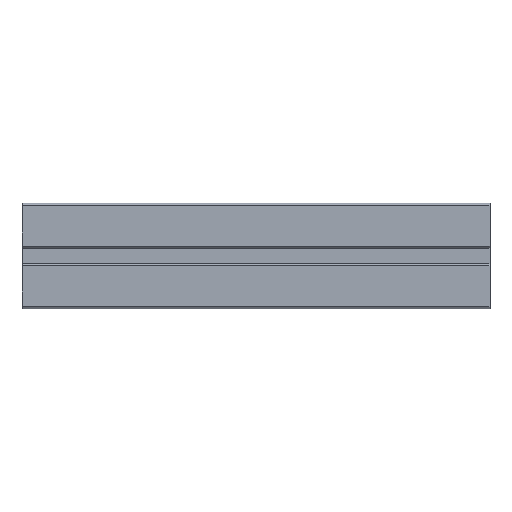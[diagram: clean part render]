
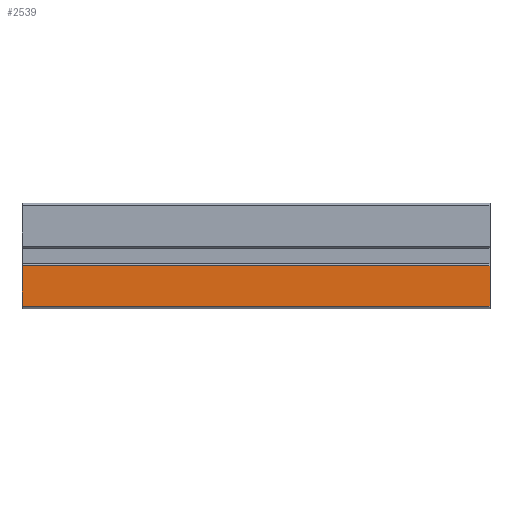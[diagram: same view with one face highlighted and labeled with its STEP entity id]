
A CAD part, top view. The second image highlights one B-rep face of the part: STEP entity #2539.
In plain terms, the highlighted planar face has unit normal (0, 0, 1).
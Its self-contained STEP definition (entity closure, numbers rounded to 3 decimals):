
#54 = CARTESIAN_POINT ( 'NONE',  ( 0., 0., 0. ) ) ;
#65 = VERTEX_POINT ( 'NONE', #2637 ) ;
#103 = EDGE_CURVE ( 'NONE', #815, #2141, #908, .T. ) ;
#121 = FACE_OUTER_BOUND ( 'NONE', #2664, .T. ) ;
#227 = CARTESIAN_POINT ( 'NONE',  ( 200., 0., 0. ) ) ;
#296 = EDGE_CURVE ( 'NONE', #2743, #815, #816, .T. ) ;
#327 = CARTESIAN_POINT ( 'NONE',  ( 200., 0., 0. ) ) ;
#394 = ORIENTED_EDGE ( 'NONE', *, *, #555, .T. ) ;
#465 = DIRECTION ( 'NONE',  ( 1., 0., 0. ) ) ;
#555 = EDGE_CURVE ( 'NONE', #65, #2141, #1571, .T. ) ;
#648 = CARTESIAN_POINT ( 'NONE',  ( 0., 18.35, 0. ) ) ;
#815 = VERTEX_POINT ( 'NONE', #1787 ) ;
#816 = LINE ( 'NONE', #1070, #2170 ) ;
#835 = CARTESIAN_POINT ( 'NONE',  ( 200., 1., 0. ) ) ;
#908 = LINE ( 'NONE', #227, #2045 ) ;
#1054 = DIRECTION ( 'NONE',  ( 1., 0., 0. ) ) ;
#1070 = CARTESIAN_POINT ( 'NONE',  ( 200., 18.35, 0. ) ) ;
#1094 = ORIENTED_EDGE ( 'NONE', *, *, #2421, .F. ) ;
#1110 = DIRECTION ( 'NONE',  ( 0., -1., 0. ) ) ;
#1233 = DIRECTION ( 'NONE',  ( 0., 0., -1. ) ) ;
#1484 = VECTOR ( 'NONE', #465, 1000. ) ;
#1571 = LINE ( 'NONE', #835, #1484 ) ;
#1787 = CARTESIAN_POINT ( 'NONE',  ( 200., 18.35, 0. ) ) ;
#1797 = CARTESIAN_POINT ( 'NONE',  ( 200., 1., 0. ) ) ;
#1864 = DIRECTION ( 'NONE',  ( 0., 1., 0. ) ) ;
#1867 = DIRECTION ( 'NONE',  ( 0., 1., 0. ) ) ;
#2045 = VECTOR ( 'NONE', #1110, 1000. ) ;
#2063 = LINE ( 'NONE', #54, #2696 ) ;
#2071 = AXIS2_PLACEMENT_3D ( 'NONE', #327, #1233, #1864 ) ;
#2141 = VERTEX_POINT ( 'NONE', #1797 ) ;
#2170 = VECTOR ( 'NONE', #1054, 1000. ) ;
#2300 = PLANE ( 'NONE',  #2071 ) ;
#2421 = EDGE_CURVE ( 'NONE', #65, #2743, #2063, .T. ) ;
#2539 = ADVANCED_FACE ( 'NONE', ( #121 ), #2300, .F. ) ;
#2637 = CARTESIAN_POINT ( 'NONE',  ( 0., 1., 0. ) ) ;
#2664 = EDGE_LOOP ( 'NONE', ( #1094, #394, #2788, #2722 ) ) ;
#2696 = VECTOR ( 'NONE', #1867, 1000. ) ;
#2722 = ORIENTED_EDGE ( 'NONE', *, *, #296, .F. ) ;
#2743 = VERTEX_POINT ( 'NONE', #648 ) ;
#2788 = ORIENTED_EDGE ( 'NONE', *, *, #103, .F. ) ;
